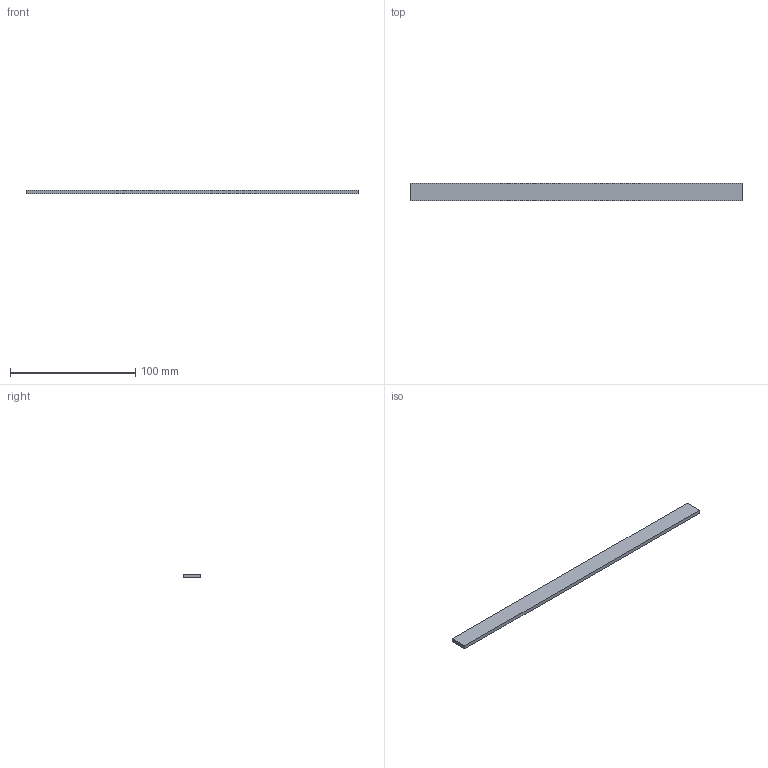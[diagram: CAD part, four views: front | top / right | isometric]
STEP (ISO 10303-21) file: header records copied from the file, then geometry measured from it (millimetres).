
FILE_DESCRIPTION(/* description */ (''),/* implementation_level */ '2;1');
FILE_NAME(/* name */ '/Users/manuelf/box/LHCB/Backplane/2020-01-01_spacers_step/medium_spacer_v2.step',/* time_stamp */ '2020-01-01T11:29:54-05:00',/* author */ (''),/* organization */ (''),/* preprocessor_version */ 'ST-DEVELOPER v18',/* originating_system */ 'Autodesk Translation Framework v8.12.0.6',/* authorisation */ '');
FILE_SCHEMA (('AUTOMOTIVE_DESIGN { 1 0 10303 214 3 1 1 }'));
Length unit declared in the file: millimetre
Products named in the file (1): medium_spacer
Bounding box: 265.5 x 14 x 3 mm (x, y, z)
Volume: 11151 mm3; surface area: 9111 mm2
Topology: 1 solids, 1 shells, 6 faces, 12 edges, 8 vertices
Faces by surface type: plane 6
Entity records: 196 total; most frequent: CARTESIAN_POINT 27, DIRECTION 26, ORIENTED_EDGE 24, LINE 12, VECTOR 12, EDGE_CURVE 12, VERTEX_POINT 8, AXIS2_PLACEMENT_3D 7
